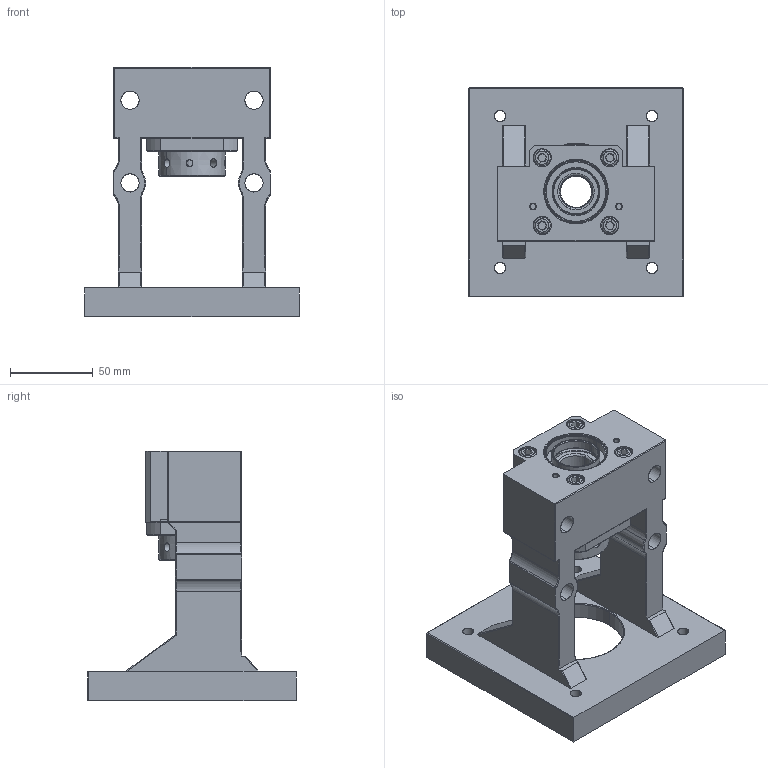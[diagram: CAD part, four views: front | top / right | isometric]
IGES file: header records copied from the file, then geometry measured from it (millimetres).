
Start section: SolidWorks IGES file using analytic representation for surfaces
Global section: file name: C:\Users\117\Desktop\1061208網站3D圖檔問題處理\傳動座\整合型\MBCS(F)\MBCS20\MBCS20-S.IGS,15HSolidWorks; native system: 2017; preprocessor: SolidWorks 2017; author: 117; date: 171228.155303; units: millimetre
Bounding box: 130 x 126 x 151 mm (x, y, z)
Surface area: 104850 mm2 (no closed solid volume)
Topology: 0 solids, 0 shells, 357 faces, 5798 edges, 5788 vertices
Faces by surface type: revolution 208, bspline 149
